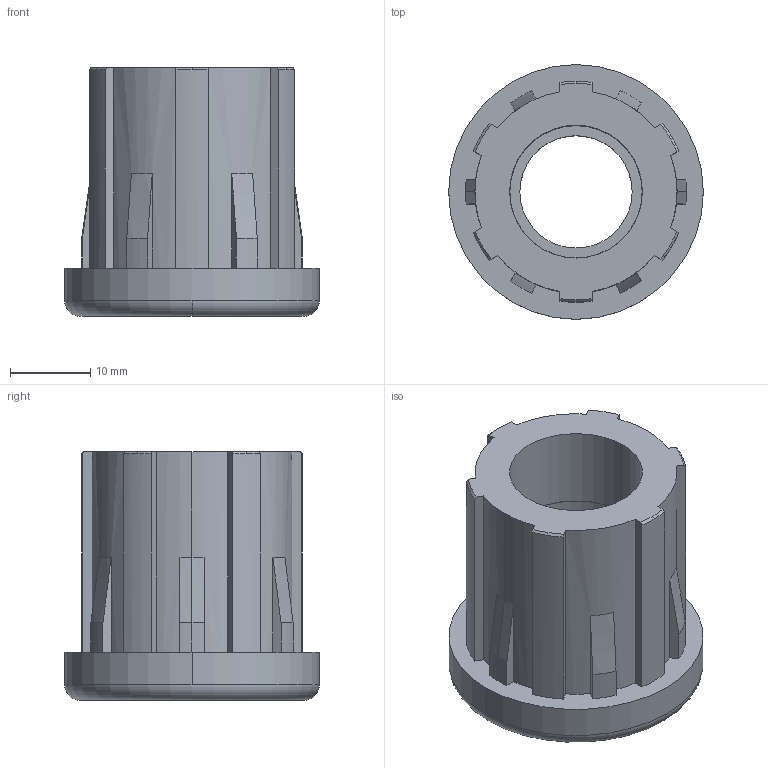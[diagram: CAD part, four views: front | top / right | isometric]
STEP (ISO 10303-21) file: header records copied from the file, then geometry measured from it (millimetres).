
FILE_DESCRIPTION (( 'STEP AP214' ), '1' );
FILE_NAME ('42006835214.STEP', '2020-02-25T17:43:27', ( '' ), ( '' ), 'SwSTEP 2.0', 'SolidWorks 2018', '' );
FILE_SCHEMA (( 'AUTOMOTIVE_DESIGN' ));
Length unit declared in the file: millimetre
Products named in the file (5): BC_M14.stp; Component1.stp; 42006835214.stp; 42006835214; 68_7237.stp
Assembly tree (4 placements, depth 4):
  42006835214
    42006835214.stp
      68_7237.stp
        Component1.stp
      BC_M14.stp
Bounding box: 31.75 x 31.75 x 31 mm (x, y, z)
Volume: 12135.4 mm3; surface area: 7605.1 mm2
Topology: 2 solids, 2 shells, 105 faces, 272 edges, 174 vertices
Faces by surface type: cylinder 38, plane 31, cone 28, torus 8
Entity records: 3432 total; most frequent: DIRECTION 628, CARTESIAN_POINT 596, ORIENTED_EDGE 544, EDGE_CURVE 272, AXIS2_PLACEMENT_3D 254, VERTEX_POINT 174, CIRCLE 140, VECTOR 120
